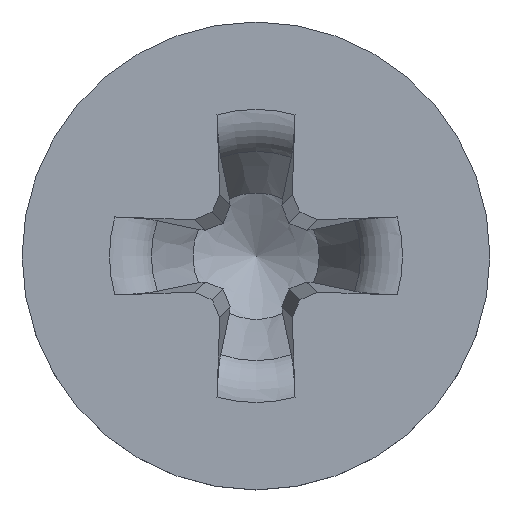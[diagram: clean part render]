
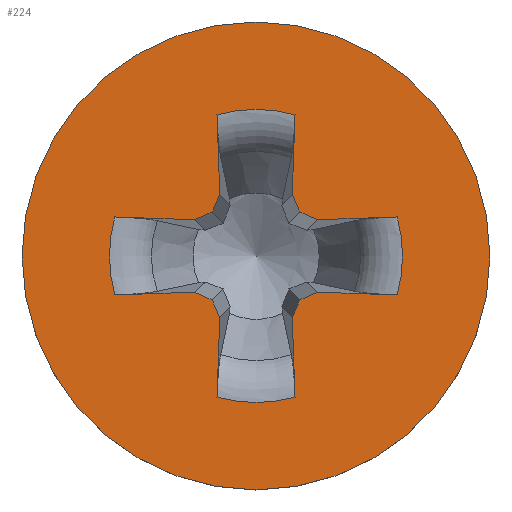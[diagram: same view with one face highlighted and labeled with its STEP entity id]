
A CAD part, top view. The second image highlights one B-rep face of the part: STEP entity #224.
In plain terms, the highlighted planar face has unit normal (0, 0, 1).
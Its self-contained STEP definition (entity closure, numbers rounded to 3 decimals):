
#65=PLANE('',#1110);
#83=LINE('',#2388,#138);
#84=LINE('',#2393,#139);
#85=LINE('',#2395,#140);
#86=LINE('',#2397,#141);
#87=LINE('',#2399,#142);
#88=LINE('',#2403,#143);
#89=LINE('',#2405,#144);
#90=LINE('',#2407,#145);
#91=LINE('',#2409,#146);
#92=LINE('',#2413,#147);
#93=LINE('',#2415,#148);
#94=LINE('',#2417,#149);
#95=LINE('',#2419,#150);
#96=LINE('',#2423,#151);
#97=LINE('',#2425,#152);
#98=LINE('',#2427,#153);
#138=VECTOR('',#1172,1.);
#139=VECTOR('',#1175,1.);
#140=VECTOR('',#1176,1.);
#141=VECTOR('',#1177,1.);
#142=VECTOR('',#1178,1.);
#143=VECTOR('',#1181,1.);
#144=VECTOR('',#1182,1.);
#145=VECTOR('',#1183,1.);
#146=VECTOR('',#1184,1.);
#147=VECTOR('',#1187,1.);
#148=VECTOR('',#1188,1.);
#149=VECTOR('',#1189,1.);
#150=VECTOR('',#1190,1.);
#151=VECTOR('',#1193,1.);
#152=VECTOR('',#1194,1.);
#153=VECTOR('',#1195,1.);
#201=FACE_BOUND('',#351,.T.);
#202=FACE_BOUND('',#352,.T.);
#224=ADVANCED_FACE('',(#201,#202),#65,.F.);
#351=EDGE_LOOP('',(#469));
#352=EDGE_LOOP('',(#470,#471,#472,#473,#474,#475,#476,#477,#478,#479,#480,
#481,#482,#483,#484,#485,#486,#487,#488,#489));
#422=CIRCLE('',#1105,1.5);
#423=CIRCLE('',#1106,0.94);
#424=CIRCLE('',#1107,0.94);
#425=CIRCLE('',#1108,0.94);
#426=CIRCLE('',#1109,0.94);
#469=ORIENTED_EDGE('',*,*,#885,.T.);
#470=ORIENTED_EDGE('',*,*,#886,.F.);
#471=ORIENTED_EDGE('',*,*,#887,.T.);
#472=ORIENTED_EDGE('',*,*,#888,.F.);
#473=ORIENTED_EDGE('',*,*,#889,.F.);
#474=ORIENTED_EDGE('',*,*,#890,.F.);
#475=ORIENTED_EDGE('',*,*,#891,.F.);
#476=ORIENTED_EDGE('',*,*,#892,.T.);
#477=ORIENTED_EDGE('',*,*,#893,.F.);
#478=ORIENTED_EDGE('',*,*,#894,.F.);
#479=ORIENTED_EDGE('',*,*,#895,.F.);
#480=ORIENTED_EDGE('',*,*,#896,.F.);
#481=ORIENTED_EDGE('',*,*,#897,.T.);
#482=ORIENTED_EDGE('',*,*,#898,.F.);
#483=ORIENTED_EDGE('',*,*,#899,.F.);
#484=ORIENTED_EDGE('',*,*,#900,.F.);
#485=ORIENTED_EDGE('',*,*,#901,.F.);
#486=ORIENTED_EDGE('',*,*,#902,.T.);
#487=ORIENTED_EDGE('',*,*,#903,.F.);
#488=ORIENTED_EDGE('',*,*,#904,.F.);
#489=ORIENTED_EDGE('',*,*,#905,.F.);
#781=VERTEX_POINT('',#2387);
#782=VERTEX_POINT('',#2389);
#783=VERTEX_POINT('',#2390);
#784=VERTEX_POINT('',#2392);
#785=VERTEX_POINT('',#2394);
#786=VERTEX_POINT('',#2396);
#787=VERTEX_POINT('',#2398);
#788=VERTEX_POINT('',#2400);
#789=VERTEX_POINT('',#2402);
#790=VERTEX_POINT('',#2404);
#791=VERTEX_POINT('',#2406);
#792=VERTEX_POINT('',#2408);
#793=VERTEX_POINT('',#2410);
#794=VERTEX_POINT('',#2412);
#795=VERTEX_POINT('',#2414);
#796=VERTEX_POINT('',#2416);
#797=VERTEX_POINT('',#2418);
#798=VERTEX_POINT('',#2420);
#799=VERTEX_POINT('',#2422);
#800=VERTEX_POINT('',#2424);
#801=VERTEX_POINT('',#2426);
#885=EDGE_CURVE('',#781,#781,#422,.T.);
#886=EDGE_CURVE('',#782,#783,#83,.T.);
#887=EDGE_CURVE('',#782,#784,#423,.T.);
#888=EDGE_CURVE('',#785,#784,#84,.T.);
#889=EDGE_CURVE('',#786,#785,#85,.T.);
#890=EDGE_CURVE('',#787,#786,#86,.T.);
#891=EDGE_CURVE('',#788,#787,#87,.T.);
#892=EDGE_CURVE('',#788,#789,#424,.T.);
#893=EDGE_CURVE('',#790,#789,#88,.T.);
#894=EDGE_CURVE('',#791,#790,#89,.T.);
#895=EDGE_CURVE('',#792,#791,#90,.T.);
#896=EDGE_CURVE('',#793,#792,#91,.T.);
#897=EDGE_CURVE('',#793,#794,#425,.T.);
#898=EDGE_CURVE('',#795,#794,#92,.T.);
#899=EDGE_CURVE('',#796,#795,#93,.T.);
#900=EDGE_CURVE('',#797,#796,#94,.T.);
#901=EDGE_CURVE('',#798,#797,#95,.T.);
#902=EDGE_CURVE('',#798,#799,#426,.T.);
#903=EDGE_CURVE('',#800,#799,#96,.T.);
#904=EDGE_CURVE('',#801,#800,#97,.T.);
#905=EDGE_CURVE('',#783,#801,#98,.T.);
#1105=AXIS2_PLACEMENT_3D('',#2386,#1170,#1171);
#1106=AXIS2_PLACEMENT_3D('',#2391,#1173,#1174);
#1107=AXIS2_PLACEMENT_3D('',#2401,#1179,#1180);
#1108=AXIS2_PLACEMENT_3D('',#2411,#1185,#1186);
#1109=AXIS2_PLACEMENT_3D('',#2421,#1191,#1192);
#1110=AXIS2_PLACEMENT_3D('',#2428,#1196,#1197);
#1170=DIRECTION('',(0.,0.,1.));
#1171=DIRECTION('',(1.,0.,0.));
#1172=DIRECTION('',(-0.999,-0.035,0.));
#1173=DIRECTION('',(0.,0.,-1.));
#1174=DIRECTION('',(-1.,0.,0.));
#1175=DIRECTION('',(0.999,-0.035,0.));
#1176=DIRECTION('',(0.921,0.391,0.));
#1177=DIRECTION('',(0.391,0.921,0.));
#1178=DIRECTION('',(-0.035,0.999,0.));
#1179=DIRECTION('',(0.,0.,-1.));
#1180=DIRECTION('',(-1.,0.,0.));
#1181=DIRECTION('',(-0.035,-0.999,0.));
#1182=DIRECTION('',(0.391,-0.921,0.));
#1183=DIRECTION('',(0.921,-0.391,0.));
#1184=DIRECTION('',(0.999,0.035,0.));
#1185=DIRECTION('',(0.,0.,-1.));
#1186=DIRECTION('',(-1.,0.,0.));
#1187=DIRECTION('',(-0.999,0.035,0.));
#1188=DIRECTION('',(-0.921,-0.391,0.));
#1189=DIRECTION('',(-0.391,-0.921,0.));
#1190=DIRECTION('',(0.035,-0.999,0.));
#1191=DIRECTION('',(0.,0.,-1.));
#1192=DIRECTION('',(-1.,0.,0.));
#1193=DIRECTION('',(0.035,0.999,0.));
#1194=DIRECTION('',(-0.391,0.921,0.));
#1195=DIRECTION('',(-0.921,0.391,0.));
#1196=DIRECTION('',(0.,0.,-1.));
#1197=DIRECTION('',(-1.,0.,0.));
#2386=CARTESIAN_POINT('',(0.,0.,1.17));
#2387=CARTESIAN_POINT('',(1.5,0.,1.17));
#2388=CARTESIAN_POINT('',(0.045,0.22,1.17));
#2389=CARTESIAN_POINT('',(0.906,0.25,1.17));
#2390=CARTESIAN_POINT('',(0.396,0.232,1.17));
#2391=CARTESIAN_POINT('',(0.,0.,1.17));
#2392=CARTESIAN_POINT('',(0.906,-0.25,1.17));
#2393=CARTESIAN_POINT('',(-0.06,-0.216,1.17));
#2394=CARTESIAN_POINT('',(0.396,-0.232,1.17));
#2395=CARTESIAN_POINT('',(0.684,-0.11,1.17));
#2396=CARTESIAN_POINT('',(0.281,-0.281,1.17));
#2397=CARTESIAN_POINT('',(0.879,1.127,1.17));
#2398=CARTESIAN_POINT('',(0.232,-0.396,1.17));
#2399=CARTESIAN_POINT('',(0.166,1.506,1.17));
#2400=CARTESIAN_POINT('',(0.25,-0.906,1.17));
#2401=CARTESIAN_POINT('',(0.,0.,1.17));
#2402=CARTESIAN_POINT('',(-0.25,-0.906,1.17));
#2403=CARTESIAN_POINT('',(-0.166,1.506,1.17));
#2404=CARTESIAN_POINT('',(-0.232,-0.396,1.17));
#2405=CARTESIAN_POINT('',(-0.879,1.127,1.17));
#2406=CARTESIAN_POINT('',(-0.281,-0.281,1.17));
#2407=CARTESIAN_POINT('',(-0.684,-0.11,1.17));
#2408=CARTESIAN_POINT('',(-0.396,-0.232,1.17));
#2409=CARTESIAN_POINT('',(0.06,-0.216,1.17));
#2410=CARTESIAN_POINT('',(-0.906,-0.25,1.17));
#2411=CARTESIAN_POINT('',(0.,0.,1.17));
#2412=CARTESIAN_POINT('',(-0.906,0.25,1.17));
#2413=CARTESIAN_POINT('',(-0.045,0.22,1.17));
#2414=CARTESIAN_POINT('',(-0.396,0.232,1.17));
#2415=CARTESIAN_POINT('',(0.395,0.568,1.17));
#2416=CARTESIAN_POINT('',(-0.281,0.281,1.17));
#2417=CARTESIAN_POINT('',(0.2,1.415,1.17));
#2418=CARTESIAN_POINT('',(-0.232,0.396,1.17));
#2419=CARTESIAN_POINT('',(-0.27,1.491,1.17));
#2420=CARTESIAN_POINT('',(-0.25,0.906,1.17));
#2421=CARTESIAN_POINT('',(0.,0.,1.17));
#2422=CARTESIAN_POINT('',(0.25,0.906,1.17));
#2423=CARTESIAN_POINT('',(0.27,1.491,1.17));
#2424=CARTESIAN_POINT('',(0.232,0.396,1.17));
#2425=CARTESIAN_POINT('',(-0.2,1.415,1.17));
#2426=CARTESIAN_POINT('',(0.281,0.281,1.17));
#2427=CARTESIAN_POINT('',(-0.395,0.568,1.17));
#2428=CARTESIAN_POINT('',(0.,1.5,1.17));
